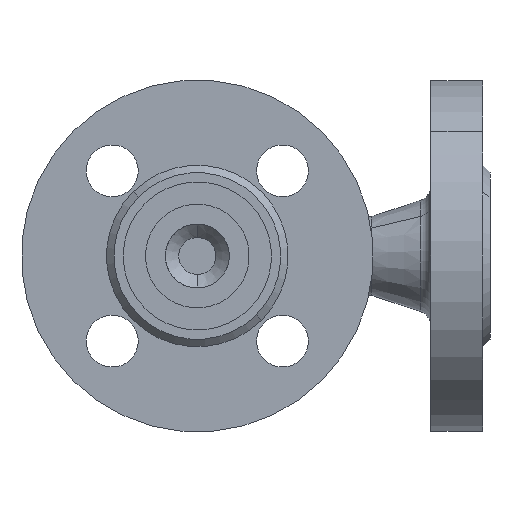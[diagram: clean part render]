
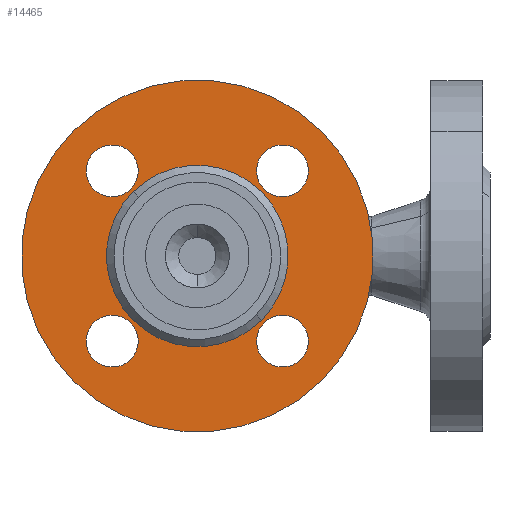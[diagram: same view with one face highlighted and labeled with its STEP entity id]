
A CAD part, front view. The second image highlights one B-rep face of the part: STEP entity #14465.
In plain terms, the highlighted planar face has unit normal (0, -1, 0).
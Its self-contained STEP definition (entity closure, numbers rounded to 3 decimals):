
#665 = ORIENTED_EDGE ( 'NONE', *, *, #1358, .F. ) ;
#942 = VERTEX_POINT ( 'NONE', #18455 ) ;
#1358 = EDGE_CURVE ( 'NONE', #942, #8753, #18662, .T. ) ;
#17819 = CARTESIAN_POINT ( 'NONE',  ( -7., 2., 32.5 ) ) ;
#17967 = EDGE_CURVE ( 'NONE', #21706, #21356, #14242, .T. ) ;
#18000 = EDGE_CURVE ( 'NONE', #13099, #12874, #14247, .T. ) ;
#18138 = CARTESIAN_POINT ( 'NONE',  ( 7., 2., 32.5 ) ) ;
#18455 = CARTESIAN_POINT ( 'NONE',  ( -47.5, 2., 0. ) ) ;
#18662 = CIRCLE ( 'NONE', #18663, 47.5 ) ;
#18663 = AXIS2_PLACEMENT_3D ( 'NONE', #18664, #18665, #18666 ) ;
#18664 = CARTESIAN_POINT ( 'NONE',  ( 0., 2., 0. ) ) ;
#18665 = DIRECTION ( 'NONE',  ( 0., 1., 0. ) ) ;
#18666 = DIRECTION ( 'NONE',  ( -1., 0., 0. ) ) ;
#18768 = CIRCLE ( 'NONE', #18769, 47.5 ) ;
#18769 = AXIS2_PLACEMENT_3D ( 'NONE', #18770, #18771, #18772 ) ;
#18770 = CARTESIAN_POINT ( 'NONE',  ( 0., 2., 0. ) ) ;
#18771 = DIRECTION ( 'NONE',  ( 0., 1., 0. ) ) ;
#18772 = DIRECTION ( 'NONE',  ( -1., 0., 0. ) ) ;
#19022 = CARTESIAN_POINT ( 'NONE',  ( -7., 2., -32.5 ) ) ;
#2677 = VERTEX_POINT ( 'NONE', #19937 ) ;
#19540 = CARTESIAN_POINT ( 'NONE',  ( 7., 2., -32.5 ) ) ;
#3202 = EDGE_CURVE ( 'NONE', #22826, #12577, #22079, .T. ) ;
#19619 = CARTESIAN_POINT ( 'NONE',  ( -39.5, 2., 0. ) ) ;
#19894 = CIRCLE ( 'NONE', #19895, 7. ) ;
#19895 = AXIS2_PLACEMENT_3D ( 'NONE', #19896, #19915, #19916 ) ;
#19896 = CARTESIAN_POINT ( 'NONE',  ( 0., 2., -32.5 ) ) ;
#19915 = DIRECTION ( 'NONE',  ( 0., 1., 0. ) ) ;
#19916 = DIRECTION ( 'NONE',  ( -1., 0., 0. ) ) ;
#19937 = CARTESIAN_POINT ( 'NONE',  ( 24.5, 2., 0. ) ) ;
#3575 = ORIENTED_EDGE ( 'NONE', *, *, #3202, .T. ) ;
#3945 = ORIENTED_EDGE ( 'NONE', *, *, #10500, .T. ) ;
#4104 = EDGE_LOOP ( 'NONE', ( #3575, #4680 ) ) ;
#4469 = EDGE_LOOP ( 'NONE', ( #3945, #9980 ) ) ;
#20972 = ORIENTED_EDGE ( 'NONE', *, *, #6957, .T. ) ;
#4680 = ORIENTED_EDGE ( 'NONE', *, *, #12802, .T. ) ;
#21071 = CIRCLE ( 'NONE', #21072, 7. ) ;
#21072 = AXIS2_PLACEMENT_3D ( 'NONE', #21073, #21074, #21075 ) ;
#21073 = CARTESIAN_POINT ( 'NONE',  ( 0., 2., 32.5 ) ) ;
#21074 = DIRECTION ( 'NONE',  ( 0., 1., 0. ) ) ;
#21075 = DIRECTION ( 'NONE',  ( -1., 0., 0. ) ) ;
#21356 = VERTEX_POINT ( 'NONE', #17819 ) ;
#5319 = ORIENTED_EDGE ( 'NONE', *, *, #23100, .T. ) ;
#21706 = VERTEX_POINT ( 'NONE', #18138 ) ;
#21937 = CARTESIAN_POINT ( 'NONE',  ( -25.5, 2., 0. ) ) ;
#21955 = ORIENTED_EDGE ( 'NONE', *, *, #7568, .T. ) ;
#22062 = EDGE_CURVE ( 'NONE', #8753, #942, #18768, .T. ) ;
#22079 = CIRCLE ( 'NONE', #22100, 7. ) ;
#22100 = AXIS2_PLACEMENT_3D ( 'NONE', #22101, #22102, #22103 ) ;
#22101 = CARTESIAN_POINT ( 'NONE',  ( -32.5, 2., 0. ) ) ;
#22102 = DIRECTION ( 'NONE',  ( 0., 1., 0. ) ) ;
#22103 = DIRECTION ( 'NONE',  ( -1., 0., 0. ) ) ;
#22134 = CIRCLE ( 'NONE', #22135, 7. ) ;
#22135 = AXIS2_PLACEMENT_3D ( 'NONE', #22136, #22137, #22138 ) ;
#22136 = CARTESIAN_POINT ( 'NONE',  ( -32.5, 2., 0. ) ) ;
#22137 = DIRECTION ( 'NONE',  ( 0., 1., 0. ) ) ;
#22138 = DIRECTION ( 'NONE',  ( -1., 0., 0. ) ) ;
#5842 = EDGE_CURVE ( 'NONE', #22272, #22685, #11473, .T. ) ;
#22272 = VERTEX_POINT ( 'NONE', #19022 ) ;
#6214 = ORIENTED_EDGE ( 'NONE', *, *, #5842, .T. ) ;
#22651 = CARTESIAN_POINT ( 'NONE',  ( 25.5, 2., 0. ) ) ;
#22685 = VERTEX_POINT ( 'NONE', #19540 ) ;
#22826 = VERTEX_POINT ( 'NONE', #19619 ) ;
#22930 = EDGE_LOOP ( 'NONE', ( #21955, #20972 ) ) ;
#23100 = EDGE_CURVE ( 'NONE', #22685, #22272, #19894, .T. ) ;
#23141 = CARTESIAN_POINT ( 'NONE',  ( 39.5, 2., 0. ) ) ;
#6957 = EDGE_CURVE ( 'NONE', #2677, #7383, #13202, .T. ) ;
#23381 = ORIENTED_EDGE ( 'NONE', *, *, #22062, .F. ) ;
#7383 = VERTEX_POINT ( 'NONE', #13922 ) ;
#7568 = EDGE_CURVE ( 'NONE', #7383, #2677, #14090, .T. ) ;
#8015 = EDGE_LOOP ( 'NONE', ( #665, #23381 ) ) ;
#8140 = ORIENTED_EDGE ( 'NONE', *, *, #18000, .T. ) ;
#8659 = EDGE_CURVE ( 'NONE', #12874, #13099, #16188, .T. ) ;
#8753 = VERTEX_POINT ( 'NONE', #16273 ) ;
#9039 = ORIENTED_EDGE ( 'NONE', *, *, #8659, .T. ) ;
#9672 = FACE_BOUND ( 'NONE', #14333, .T. ) ;
#9673 = FACE_BOUND ( 'NONE', #4104, .T. ) ;
#9674 = FACE_BOUND ( 'NONE', #4469, .T. ) ;
#9675 = FACE_BOUND ( 'NONE', #9737, .T. ) ;
#9676 = FACE_OUTER_BOUND ( 'NONE', #8015, .T. ) ;
#9677 = FACE_BOUND ( 'NONE', #22930, .T. ) ;
#9678 = PLANE ( 'NONE',  #9679 ) ;
#9679 = AXIS2_PLACEMENT_3D ( 'NONE', #9680, #9681, #9682 ) ;
#9680 = CARTESIAN_POINT ( 'NONE',  ( 24.5, 2., 0. ) ) ;
#9681 = DIRECTION ( 'NONE',  ( 0., 1., 0. ) ) ;
#9682 = DIRECTION ( 'NONE',  ( -1., 0., 0. ) ) ;
#9737 = EDGE_LOOP ( 'NONE', ( #9039, #8140 ) ) ;
#9980 = ORIENTED_EDGE ( 'NONE', *, *, #17967, .T. ) ;
#10500 = EDGE_CURVE ( 'NONE', #21356, #21706, #21071, .T. ) ;
#11473 = CIRCLE ( 'NONE', #11474, 7. ) ;
#11474 = AXIS2_PLACEMENT_3D ( 'NONE', #11475, #11476, #11477 ) ;
#11475 = CARTESIAN_POINT ( 'NONE',  ( 0., 2., -32.5 ) ) ;
#11476 = DIRECTION ( 'NONE',  ( 0., 1., 0. ) ) ;
#11477 = DIRECTION ( 'NONE',  ( -1., 0., 0. ) ) ;
#12577 = VERTEX_POINT ( 'NONE', #21937 ) ;
#12802 = EDGE_CURVE ( 'NONE', #12577, #22826, #22134, .T. ) ;
#12874 = VERTEX_POINT ( 'NONE', #22651 ) ;
#13099 = VERTEX_POINT ( 'NONE', #23141 ) ;
#13202 = CIRCLE ( 'NONE', #13203, 24.5 ) ;
#13203 = AXIS2_PLACEMENT_3D ( 'NONE', #13204, #13205, #13213 ) ;
#13204 = CARTESIAN_POINT ( 'NONE',  ( 0., 2., 0. ) ) ;
#13205 = DIRECTION ( 'NONE',  ( 0., 1., 0. ) ) ;
#13213 = DIRECTION ( 'NONE',  ( -1., 0., 0. ) ) ;
#13922 = CARTESIAN_POINT ( 'NONE',  ( -24.5, 2., 0. ) ) ;
#14090 = CIRCLE ( 'NONE', #14091, 24.5 ) ;
#14091 = AXIS2_PLACEMENT_3D ( 'NONE', #14092, #14093, #14094 ) ;
#14092 = CARTESIAN_POINT ( 'NONE',  ( 0., 2., 0. ) ) ;
#14093 = DIRECTION ( 'NONE',  ( 0., 1., 0. ) ) ;
#14094 = DIRECTION ( 'NONE',  ( -1., 0., 0. ) ) ;
#14242 = CIRCLE ( 'NONE', #14243, 7. ) ;
#14243 = AXIS2_PLACEMENT_3D ( 'NONE', #14244, #14245, #14246 ) ;
#14244 = CARTESIAN_POINT ( 'NONE',  ( 0., 2., 32.5 ) ) ;
#14245 = DIRECTION ( 'NONE',  ( 0., 1., 0. ) ) ;
#14246 = DIRECTION ( 'NONE',  ( -1., 0., 0. ) ) ;
#14247 = CIRCLE ( 'NONE', #14248, 7. ) ;
#14248 = AXIS2_PLACEMENT_3D ( 'NONE', #14249, #14250, #14251 ) ;
#14249 = CARTESIAN_POINT ( 'NONE',  ( 32.5, 2., 0. ) ) ;
#14250 = DIRECTION ( 'NONE',  ( 0., 1., 0. ) ) ;
#14251 = DIRECTION ( 'NONE',  ( -1., 0., 0. ) ) ;
#14333 = EDGE_LOOP ( 'NONE', ( #6214, #5319 ) ) ;
#14465 = ADVANCED_FACE ( 'NONE', ( #9672, #9673, #9674, #9675, #9676, #9677 ), #9678, .F. ) ;
#16188 = CIRCLE ( 'NONE', #16189, 7. ) ;
#16189 = AXIS2_PLACEMENT_3D ( 'NONE', #16190, #16191, #16192 ) ;
#16190 = CARTESIAN_POINT ( 'NONE',  ( 32.5, 2., 0. ) ) ;
#16191 = DIRECTION ( 'NONE',  ( 0., 1., 0. ) ) ;
#16192 = DIRECTION ( 'NONE',  ( -1., 0., 0. ) ) ;
#16273 = CARTESIAN_POINT ( 'NONE',  ( 47.5, 2., 0. ) ) ;
